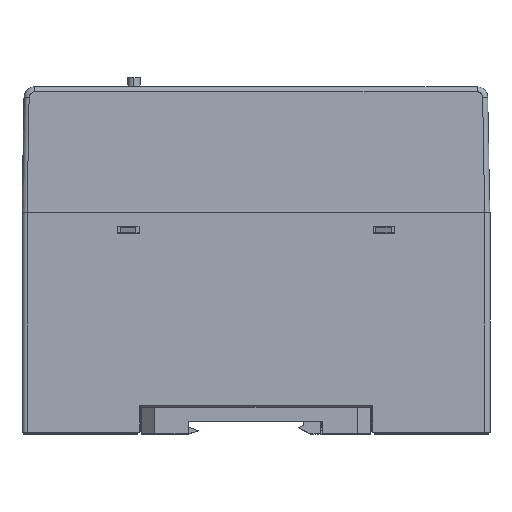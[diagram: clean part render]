
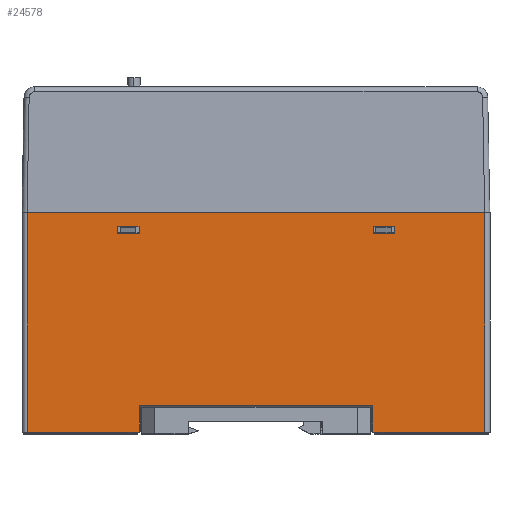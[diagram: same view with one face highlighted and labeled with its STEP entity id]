
A CAD part, top view. The second image highlights one B-rep face of the part: STEP entity #24578.
In plain terms, the highlighted planar face has unit normal (0, 0, 1).
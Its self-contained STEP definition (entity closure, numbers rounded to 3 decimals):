
#50 = EDGE_CURVE ( 'NONE', #85268, #191721, #100356, .T. ) ;
#3675 = CARTESIAN_POINT ( 'NONE',  ( -29.58, 13.575, 23.258 ) ) ;
#4485 = DIRECTION ( 'NONE',  ( 0., -1., 0. ) ) ;
#5520 = DIRECTION ( 'NONE',  ( -1., 0., 0. ) ) ;
#6632 = ORIENTED_EDGE ( 'NONE', *, *, #168739, .T. ) ;
#7461 = LINE ( 'NONE', #131594, #169113 ) ;
#9530 = ORIENTED_EDGE ( 'NONE', *, *, #126379, .T. ) ;
#9566 = VERTEX_POINT ( 'NONE', #187885 ) ;
#10130 = VECTOR ( 'NONE', #22332, 1000. ) ;
#13458 = AXIS2_PLACEMENT_3D ( 'NONE', #106233, #152315, #194410 ) ;
#17853 = DIRECTION ( 'NONE',  ( 1., 0., 0. ) ) ;
#19091 = CARTESIAN_POINT ( 'NONE',  ( 80.076, -47.848, 23.258 ) ) ;
#22332 = DIRECTION ( 'NONE',  ( 0., 1., 0. ) ) ;
#22400 = EDGE_CURVE ( 'NONE', #146613, #135997, #147320, .T. ) ;
#24578 = ADVANCED_FACE ( 'NONE', ( #74202, #164385, #45124 ), #134291, .F. ) ;
#25891 = CARTESIAN_POINT ( 'NONE',  ( -23.227, 11.415, 23.258 ) ) ;
#34548 = DIRECTION ( 'NONE',  ( 0., -1., 0. ) ) ;
#37622 = CARTESIAN_POINT ( 'NONE',  ( 46.633, -47.848, 23.258 ) ) ;
#40461 = DIRECTION ( 'NONE',  ( 0., 1., 0. ) ) ;
#41975 = CARTESIAN_POINT ( 'NONE',  ( -58.169, -47.848, 23.258 ) ) ;
#42377 = VECTOR ( 'NONE', #69723, 1000. ) ;
#43570 = CARTESIAN_POINT ( 'NONE',  ( -23.201, -39.843, 23.258 ) ) ;
#43959 = DIRECTION ( 'NONE',  ( 1., 0., 0. ) ) ;
#45124 = FACE_OUTER_BOUND ( 'NONE', #62333, .T. ) ;
#45204 = VECTOR ( 'NONE', #194344, 1000. ) ;
#47476 = CARTESIAN_POINT ( 'NONE',  ( -29.58, 13.575, 23.258 ) ) ;
#47591 = CARTESIAN_POINT ( 'NONE',  ( 46.633, 17.717, 23.258 ) ) ;
#48010 = CARTESIAN_POINT ( 'NONE',  ( 46.658, 11.415, 23.258 ) ) ;
#48690 = VERTEX_POINT ( 'NONE', #162009 ) ;
#50071 = VERTEX_POINT ( 'NONE', #3675 ) ;
#51742 = VECTOR ( 'NONE', #4485, 1000. ) ;
#57170 = VECTOR ( 'NONE', #140090, 1000. ) ;
#60193 = ORIENTED_EDGE ( 'NONE', *, *, #110842, .F. ) ;
#61136 = EDGE_CURVE ( 'NONE', #184138, #126541, #7461, .T. ) ;
#62333 = EDGE_LOOP ( 'NONE', ( #131565, #85532, #93572, #60193, #70001, #78873, #6632, #146176 ) ) ;
#63490 = LINE ( 'NONE', #47476, #171116 ) ;
#63639 = DIRECTION ( 'NONE',  ( 1., 0., 0. ) ) ;
#63659 = CARTESIAN_POINT ( 'NONE',  ( 80.076, 17.717, 23.258 ) ) ;
#67315 = LINE ( 'NONE', #145463, #116465 ) ;
#69723 = DIRECTION ( 'NONE',  ( 0., -1., 0. ) ) ;
#70001 = ORIENTED_EDGE ( 'NONE', *, *, #81788, .T. ) ;
#70311 = VERTEX_POINT ( 'NONE', #25891 ) ;
#72995 = CARTESIAN_POINT ( 'NONE',  ( 46.658, 13.575, 23.258 ) ) ;
#74202 = FACE_BOUND ( 'NONE', #117105, .T. ) ;
#74338 = CARTESIAN_POINT ( 'NONE',  ( -56.644, 17.717, 23.258 ) ) ;
#77755 = DIRECTION ( 'NONE',  ( 0., 1., 0. ) ) ;
#77980 = CARTESIAN_POINT ( 'NONE',  ( -58.169, 17.717, 23.258 ) ) ;
#78873 = ORIENTED_EDGE ( 'NONE', *, *, #22400, .T. ) ;
#81137 = EDGE_CURVE ( 'NONE', #70311, #135777, #153135, .T. ) ;
#81788 = EDGE_CURVE ( 'NONE', #96076, #146613, #93331, .T. ) ;
#82107 = ORIENTED_EDGE ( 'NONE', *, *, #189102, .T. ) ;
#83931 = VECTOR ( 'NONE', #120044, 1000. ) ;
#85268 = VERTEX_POINT ( 'NONE', #139809 ) ;
#85532 = ORIENTED_EDGE ( 'NONE', *, *, #95431, .T. ) ;
#88204 = CARTESIAN_POINT ( 'NONE',  ( -58.169, -47.848, 23.258 ) ) ;
#93331 = LINE ( 'NONE', #74338, #191589 ) ;
#93572 = ORIENTED_EDGE ( 'NONE', *, *, #61136, .T. ) ;
#93998 = EDGE_CURVE ( 'NONE', #50071, #9566, #63490, .T. ) ;
#95431 = EDGE_CURVE ( 'NONE', #179677, #184138, #197192, .T. ) ;
#96076 = VERTEX_POINT ( 'NONE', #154383 ) ;
#97857 = CARTESIAN_POINT ( 'NONE',  ( 46.633, -39.843, 23.258 ) ) ;
#98791 = CARTESIAN_POINT ( 'NONE',  ( -23.227, 11.415, 23.258 ) ) ;
#100356 = LINE ( 'NONE', #156743, #103657 ) ;
#103657 = VECTOR ( 'NONE', #34548, 1000. ) ;
#105779 = LINE ( 'NONE', #181879, #147843 ) ;
#106233 = CARTESIAN_POINT ( 'NONE',  ( -58.169, 17.717, 23.258 ) ) ;
#108577 = DIRECTION ( 'NONE',  ( 1., 0., 0. ) ) ;
#110842 = EDGE_CURVE ( 'NONE', #96076, #126541, #185096, .T. ) ;
#112831 = CARTESIAN_POINT ( 'NONE',  ( -23.201, -47.848, 23.258 ) ) ;
#116465 = VECTOR ( 'NONE', #128398, 1000. ) ;
#117105 = EDGE_LOOP ( 'NONE', ( #198281, #117933, #187908, #82107 ) ) ;
#117933 = ORIENTED_EDGE ( 'NONE', *, *, #124638, .T. ) ;
#118835 = ORIENTED_EDGE ( 'NONE', *, *, #191766, .T. ) ;
#120044 = DIRECTION ( 'NONE',  ( 1., 0., 0. ) ) ;
#123770 = LINE ( 'NONE', #139814, #140685 ) ;
#124638 = EDGE_CURVE ( 'NONE', #135777, #50071, #148182, .T. ) ;
#126379 = EDGE_CURVE ( 'NONE', #191721, #181811, #123770, .T. ) ;
#126541 = VERTEX_POINT ( 'NONE', #63659 ) ;
#128398 = DIRECTION ( 'NONE',  ( 0., 1., 0. ) ) ;
#131565 = ORIENTED_EDGE ( 'NONE', *, *, #145318, .T. ) ;
#131594 = CARTESIAN_POINT ( 'NONE',  ( 80.076, 17.717, 23.258 ) ) ;
#134291 = PLANE ( 'NONE',  #13458 ) ;
#135777 = VERTEX_POINT ( 'NONE', #149870 ) ;
#135997 = VERTEX_POINT ( 'NONE', #112831 ) ;
#136201 = VECTOR ( 'NONE', #43959, 1000. ) ;
#139118 = CARTESIAN_POINT ( 'NONE',  ( -29.58, 11.415, 23.258 ) ) ;
#139809 = CARTESIAN_POINT ( 'NONE',  ( 53.011, 13.575, 23.258 ) ) ;
#139814 = CARTESIAN_POINT ( 'NONE',  ( 46.658, 11.415, 23.258 ) ) ;
#140090 = DIRECTION ( 'NONE',  ( -1., 0., 0. ) ) ;
#140685 = VECTOR ( 'NONE', #5520, 1000. ) ;
#145318 = EDGE_CURVE ( 'NONE', #157813, #179677, #184809, .T. ) ;
#145463 = CARTESIAN_POINT ( 'NONE',  ( 46.658, 11.415, 23.258 ) ) ;
#146176 = ORIENTED_EDGE ( 'NONE', *, *, #146284, .T. ) ;
#146284 = EDGE_CURVE ( 'NONE', #175826, #157813, #105779, .T. ) ;
#146613 = VERTEX_POINT ( 'NONE', #176739 ) ;
#147320 = LINE ( 'NONE', #88204, #45204 ) ;
#147843 = VECTOR ( 'NONE', #63639, 1000. ) ;
#148182 = LINE ( 'NONE', #179191, #153279 ) ;
#149870 = CARTESIAN_POINT ( 'NONE',  ( -29.58, 11.415, 23.258 ) ) ;
#152315 = DIRECTION ( 'NONE',  ( 0., 0., -1. ) ) ;
#153135 = LINE ( 'NONE', #139118, #57170 ) ;
#153279 = VECTOR ( 'NONE', #77755, 1000. ) ;
#153427 = VECTOR ( 'NONE', #17853, 1000. ) ;
#154383 = CARTESIAN_POINT ( 'NONE',  ( -56.644, 17.717, 23.258 ) ) ;
#156743 = CARTESIAN_POINT ( 'NONE',  ( 53.011, 11.415, 23.258 ) ) ;
#157813 = VERTEX_POINT ( 'NONE', #97857 ) ;
#159564 = CARTESIAN_POINT ( 'NONE',  ( -23.201, 17.717, 23.258 ) ) ;
#162009 = CARTESIAN_POINT ( 'NONE',  ( 46.658, 13.575, 23.258 ) ) ;
#164385 = FACE_BOUND ( 'NONE', #166738, .T. ) ;
#165147 = LINE ( 'NONE', #72995, #83931 ) ;
#166473 = DIRECTION ( 'NONE',  ( 0., -1., 0. ) ) ;
#166738 = EDGE_LOOP ( 'NONE', ( #9530, #118835, #173810, #168161 ) ) ;
#168161 = ORIENTED_EDGE ( 'NONE', *, *, #50, .T. ) ;
#168739 = EDGE_CURVE ( 'NONE', #135997, #175826, #189612, .T. ) ;
#169113 = VECTOR ( 'NONE', #40461, 1000. ) ;
#169964 = EDGE_CURVE ( 'NONE', #48690, #85268, #165147, .T. ) ;
#171116 = VECTOR ( 'NONE', #108577, 1000. ) ;
#173810 = ORIENTED_EDGE ( 'NONE', *, *, #169964, .T. ) ;
#174910 = LINE ( 'NONE', #98791, #42377 ) ;
#175826 = VERTEX_POINT ( 'NONE', #43570 ) ;
#176739 = CARTESIAN_POINT ( 'NONE',  ( -56.644, -47.848, 23.258 ) ) ;
#179191 = CARTESIAN_POINT ( 'NONE',  ( -29.58, 11.415, 23.258 ) ) ;
#179677 = VERTEX_POINT ( 'NONE', #37622 ) ;
#181811 = VERTEX_POINT ( 'NONE', #48010 ) ;
#181879 = CARTESIAN_POINT ( 'NONE',  ( -58.169, -39.843, 23.258 ) ) ;
#184138 = VERTEX_POINT ( 'NONE', #19091 ) ;
#184809 = LINE ( 'NONE', #47591, #51742 ) ;
#185096 = LINE ( 'NONE', #77980, #153427 ) ;
#187885 = CARTESIAN_POINT ( 'NONE',  ( -23.227, 13.575, 23.258 ) ) ;
#187908 = ORIENTED_EDGE ( 'NONE', *, *, #93998, .T. ) ;
#188505 = CARTESIAN_POINT ( 'NONE',  ( 53.011, 11.415, 23.258 ) ) ;
#189102 = EDGE_CURVE ( 'NONE', #9566, #70311, #174910, .T. ) ;
#189612 = LINE ( 'NONE', #159564, #10130 ) ;
#191589 = VECTOR ( 'NONE', #166473, 1000. ) ;
#191721 = VERTEX_POINT ( 'NONE', #188505 ) ;
#191766 = EDGE_CURVE ( 'NONE', #181811, #48690, #67315, .T. ) ;
#194344 = DIRECTION ( 'NONE',  ( 1., 0., 0. ) ) ;
#194410 = DIRECTION ( 'NONE',  ( 0., 1., 0. ) ) ;
#197192 = LINE ( 'NONE', #41975, #136201 ) ;
#198281 = ORIENTED_EDGE ( 'NONE', *, *, #81137, .T. ) ;
